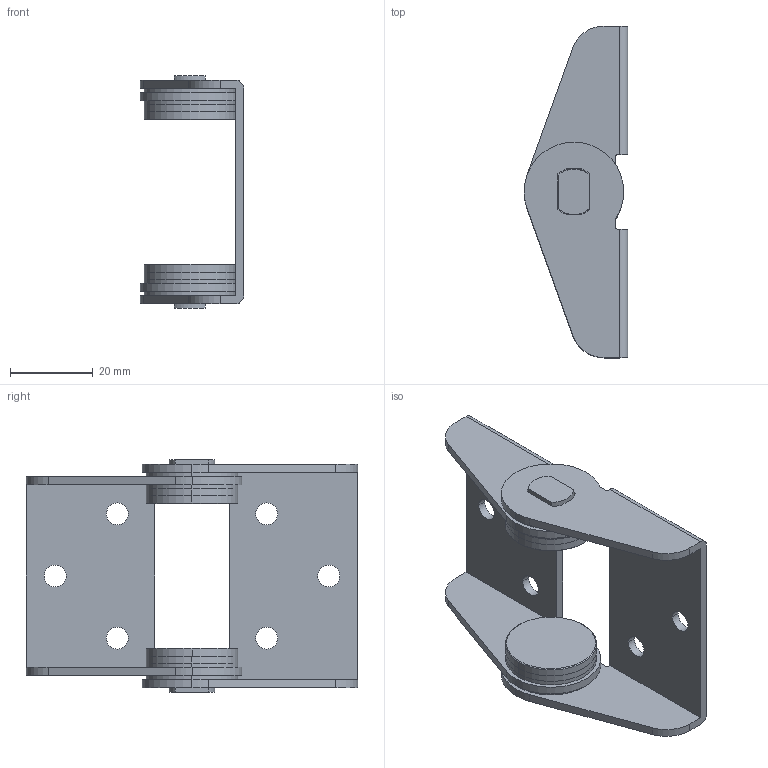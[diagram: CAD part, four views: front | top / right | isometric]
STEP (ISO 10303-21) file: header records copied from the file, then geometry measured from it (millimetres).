
FILE_DESCRIPTION (( 'STEP AP203' ), '1' );
FILE_NAME ('HG-ITM_0.step', '2012-05-14T02:11:43', ( ' ' ), ( '' ), 'SwSTEP 2.0', 'SolidWorks 2011', '' );
FILE_SCHEMA (( 'CONFIG_CONTROL_DESIGN' ));
Length unit declared in the file: millimetre
Products named in the file (6): HG-ITM_0; SC170-01090_ITMŒ^_ƒVƒƒƒtƒg; SC170-01094_ITM型_波ワッシャ-; SC170-01092_ITMŒ^_ƒuƒ‰ƒPƒbƒg; SC170-01091_ITM型_フリクションプレート; SC170-01093_ITM型_ベース
Assembly tree (10 placements, depth 2):
  HG-ITM_0
    SC170-01093_ITM型_ベース
    SC170-01092_ITMŒ^_ƒuƒ‰ƒPƒbƒg
    SC170-01090_ITMŒ^_ƒVƒƒƒtƒg  x2
    SC170-01094_ITM型_波ワッシャ-  x2
    SC170-01091_ITM型_フリクションプレート  x4
Bounding box: 25 x 80 x 56 mm (x, y, z)
Volume: 17270.7 mm3; surface area: 20586.4 mm2
Topology: 10 solids, 10 shells, 178 faces, 464 edges, 308 vertices
Faces by surface type: cylinder 92, plane 82, cone 4
Entity records: 4642 total; most frequent: DIRECTION 728, CARTESIAN_POINT 668, ORIENTED_EDGE 644, EDGE_CURVE 322, AXIS2_PLACEMENT_3D 274, VERTEX_POINT 214, VECTOR 180, LINE 180
